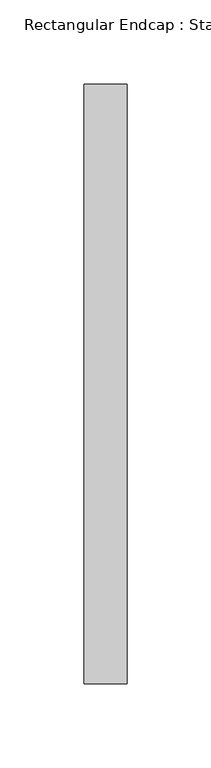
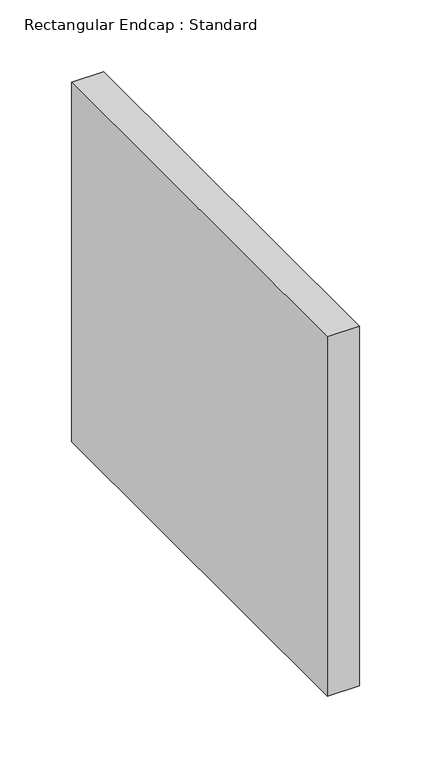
"""IFC4 building model written with IfcOpenShell, lengths in millimetres: duct fitting geometry, Rectangular Endcap : Standard."""

from ifc_helpers import new_model, si_unit, frame, origin, place, context, project, spatial, polyline, outline, extrude, source, transform, mapped, element, save


def rectangular_endcap_standard_8262ab2a(model_context):
    return source(origin(), model_context, "Body", "SweptSolid", [
        extrude(outline(polyline([(0.0, -177.8), (0.0, 177.8), (25.4, 177.8), (25.4, -177.8), (0.0, -177.8)])), frame((0.0, 0.0, -152.4), z_axis=(0.0, 0.0, 1.0), x_axis=(1.0, 0.0, 0.0)), (0.0, 0.0, 1.0), 304.8),
    ])


if __name__ == "__main__":
    model = new_model("IFC4")
    model_context = context("Model", 3, world=origin())
    ifc_project = project(units=[si_unit("LENGTHUNIT", "METRE", prefix="MILLI")], contexts=[model_context])
    site = spatial("IfcSite", under=ifc_project)
    building = spatial("IfcBuilding", under=site)
    placement = place(None, origin())
    rectangular_endcap_standard_shape = rectangular_endcap_standard_8262ab2a(model_context)
    element("IfcDuctFitting", 1, ObjectType="Rectangular Endcap : Standard", at=placement, inside=building, context=model_context, shape_type="MappedRepresentation", body=[
        mapped(rectangular_endcap_standard_shape, transform((0.0, 0.0, 0.0), x_axis=(1.0, 0.0, 0.0), y_axis=(0.0, 1.0, 0.0), z_axis=(0.0, 0.0, 1.0))),
    ])
    save(model, "model.ifc")
